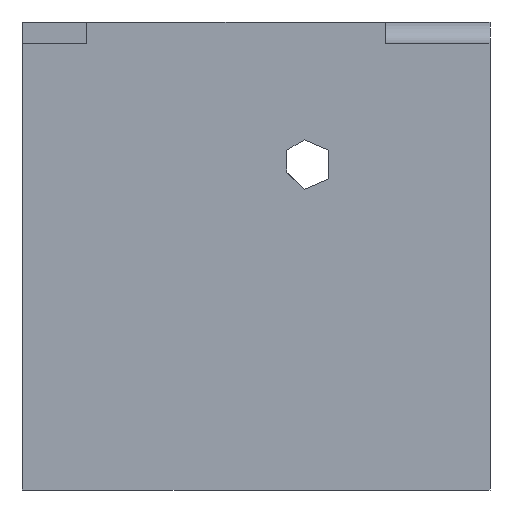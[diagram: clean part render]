
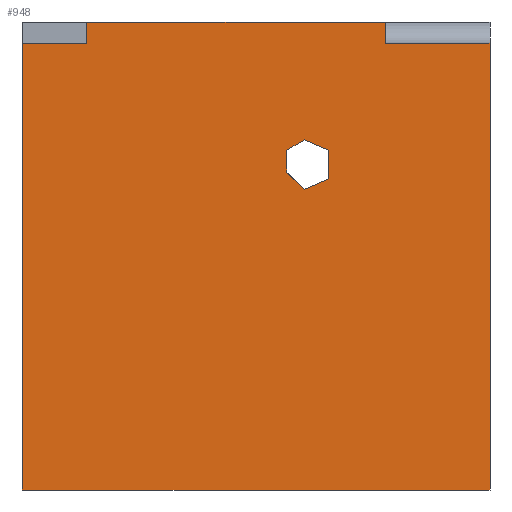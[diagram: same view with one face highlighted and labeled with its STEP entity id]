
A CAD part, left-side view. The second image highlights one B-rep face of the part: STEP entity #948.
In plain terms, the highlighted planar face has unit normal (-1, 0, 0).
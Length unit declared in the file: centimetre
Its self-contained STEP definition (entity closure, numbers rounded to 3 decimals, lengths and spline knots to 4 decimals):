
#7 = EDGE_CURVE ( 'NONE', #1961, #75, #1263, .T. ) ;
#28 = DIRECTION ( 'NONE',  ( 0., 0., 1. ) ) ;
#75 = VERTEX_POINT ( 'NONE', #576 ) ;
#101 = LINE ( 'NONE', #632, #1363 ) ;
#129 = VECTOR ( 'NONE', #2098, 100. ) ;
#149 = VERTEX_POINT ( 'NONE', #166 ) ;
#162 = VERTEX_POINT ( 'NONE', #1787 ) ;
#166 = CARTESIAN_POINT ( 'NONE',  ( 0., 434.0906, 679.3181 ) ) ;
#190 = LINE ( 'NONE', #864, #402 ) ;
#201 = CARTESIAN_POINT ( 'NONE',  ( 0., 861.4001, 1000. ) ) ;
#212 = ORIENTED_EDGE ( 'NONE', *, *, #1172, .T. ) ;
#214 = ORIENTED_EDGE ( 'NONE', *, *, #1369, .T. ) ;
#272 = DIRECTION ( 'NONE',  ( 0., -1., 0. ) ) ;
#289 = CARTESIAN_POINT ( 'NONE',  ( 0., 344.0881, 664.7056 ) ) ;
#322 = FACE_OUTER_BOUND ( 'NONE', #1942, .T. ) ;
#333 = ORIENTED_EDGE ( 'NONE', *, *, #1396, .F. ) ;
#344 = CARTESIAN_POINT ( 'NONE',  ( 0., 1000., 1000. ) ) ;
#391 = EDGE_CURVE ( 'NONE', #1295, #1247, #1817, .T. ) ;
#402 = VECTOR ( 'NONE', #28, 100. ) ;
#418 = VECTOR ( 'NONE', #272, 100. ) ;
#422 = CARTESIAN_POINT ( 'NONE',  ( 0., 397.0226, 748.2847 ) ) ;
#446 = ORIENTED_EDGE ( 'NONE', *, *, #391, .T. ) ;
#459 = ORIENTED_EDGE ( 'NONE', *, *, #630, .T. ) ;
#485 = DIRECTION ( 'NONE',  ( 1., 0., 0. ) ) ;
#562 = VECTOR ( 'NONE', #706, 100. ) ;
#569 = LINE ( 'NONE', #591, #1007 ) ;
#576 = CARTESIAN_POINT ( 'NONE',  ( 0., 1000., 954.7431 ) ) ;
#591 = CARTESIAN_POINT ( 'NONE',  ( 0., 224.0265, 954.7431 ) ) ;
#630 = EDGE_CURVE ( 'NONE', #1377, #162, #1571, .T. ) ;
#632 = CARTESIAN_POINT ( 'NONE',  ( 0., 861.4001, 954.7431 ) ) ;
#654 = EDGE_LOOP ( 'NONE', ( #1679, #1669, #1135, #856, #446, #212 ) ) ;
#683 = VERTEX_POINT ( 'NONE', #2069 ) ;
#690 = VECTOR ( 'NONE', #1117, 100. ) ;
#692 = CARTESIAN_POINT ( 'NONE',  ( 0., 224.0265, 1000. ) ) ;
#706 = DIRECTION ( 'NONE',  ( 0., -1., 0. ) ) ;
#758 = VECTOR ( 'NONE', #1940, 100. ) ;
#768 = EDGE_CURVE ( 'NONE', #1672, #683, #569, .T. ) ;
#778 = CARTESIAN_POINT ( 'NONE',  ( 0., 1000., 1000. ) ) ;
#844 = CARTESIAN_POINT ( 'NONE',  ( 0., 0., 1000. ) ) ;
#853 = LINE ( 'NONE', #692, #1141 ) ;
#856 = ORIENTED_EDGE ( 'NONE', *, *, #1434, .T. ) ;
#864 = CARTESIAN_POINT ( 'NONE',  ( 0., 434.0906, 679.3181 ) ) ;
#865 = VECTOR ( 'NONE', #1316, 100. ) ;
#883 = EDGE_CURVE ( 'NONE', #1455, #149, #1102, .T. ) ;
#885 = EDGE_CURVE ( 'NONE', #1113, #1455, #1130, .T. ) ;
#902 = EDGE_CURVE ( 'NONE', #1961, #1816, #101, .T. ) ;
#905 = EDGE_CURVE ( 'NONE', #1816, #1246, #2127, .T. ) ;
#948 = ADVANCED_FACE ( 'NONE', ( #1009, #322 ), #1341, .F. ) ;
#982 = DIRECTION ( 'NONE',  ( 0., 0., -1. ) ) ;
#1007 = VECTOR ( 'NONE', #1082, 100. ) ;
#1009 = FACE_BOUND ( 'NONE', #654, .T. ) ;
#1016 = LINE ( 'NONE', #344, #1742 ) ;
#1060 = ORIENTED_EDGE ( 'NONE', *, *, #902, .F. ) ;
#1082 = DIRECTION ( 'NONE',  ( 0., 1., 0. ) ) ;
#1084 = VECTOR ( 'NONE', #2046, 100. ) ;
#1102 = LINE ( 'NONE', #1283, #129 ) ;
#1113 = VERTEX_POINT ( 'NONE', #1233 ) ;
#1117 = DIRECTION ( 'NONE',  ( 0., 1., 0. ) ) ;
#1130 = LINE ( 'NONE', #289, #1182 ) ;
#1135 = ORIENTED_EDGE ( 'NONE', *, *, #883, .T. ) ;
#1141 = VECTOR ( 'NONE', #982, 100. ) ;
#1150 = CARTESIAN_POINT ( 'NONE',  ( 0., 434.0906, 725.8291 ) ) ;
#1167 = DIRECTION ( 'NONE',  ( 0., -0.855, 0.518 ) ) ;
#1172 = EDGE_CURVE ( 'NONE', #1247, #1268, #2058, .T. ) ;
#1178 = CARTESIAN_POINT ( 'NONE',  ( 0., 434.0906, 725.8291 ) ) ;
#1182 = VECTOR ( 'NONE', #1765, 100. ) ;
#1222 = CARTESIAN_POINT ( 'NONE',  ( 0., 397.0226, 748.2847 ) ) ;
#1233 = CARTESIAN_POINT ( 'NONE',  ( 0., 344.0881, 664.7056 ) ) ;
#1246 = VERTEX_POINT ( 'NONE', #1552 ) ;
#1247 = VERTEX_POINT ( 'NONE', #1222 ) ;
#1263 = LINE ( 'NONE', #1763, #690 ) ;
#1268 = VERTEX_POINT ( 'NONE', #1282 ) ;
#1277 = CARTESIAN_POINT ( 'NONE',  ( 0., 344.0881, 725.8291 ) ) ;
#1282 = CARTESIAN_POINT ( 'NONE',  ( 0., 344.0881, 725.8291 ) ) ;
#1283 = CARTESIAN_POINT ( 'NONE',  ( 0., 397.0226, 642.25 ) ) ;
#1295 = VERTEX_POINT ( 'NONE', #1150 ) ;
#1298 = LINE ( 'NONE', #1277, #758 ) ;
#1315 = EDGE_CURVE ( 'NONE', #1672, #162, #1987, .T. ) ;
#1316 = DIRECTION ( 'NONE',  ( 0., 0., -1. ) ) ;
#1341 = PLANE ( 'NONE',  #2149 ) ;
#1363 = VECTOR ( 'NONE', #1606, 100. ) ;
#1369 = EDGE_CURVE ( 'NONE', #75, #1377, #1016, .T. ) ;
#1377 = VERTEX_POINT ( 'NONE', #1476 ) ;
#1396 = EDGE_CURVE ( 'NONE', #1246, #683, #853, .T. ) ;
#1434 = EDGE_CURVE ( 'NONE', #149, #1295, #190, .T. ) ;
#1455 = VERTEX_POINT ( 'NONE', #1503 ) ;
#1476 = CARTESIAN_POINT ( 'NONE',  ( 0., 1000., 0. ) ) ;
#1499 = VECTOR ( 'NONE', #1167, 100. ) ;
#1502 = DIRECTION ( 'NONE',  ( 0., 0., -1. ) ) ;
#1503 = CARTESIAN_POINT ( 'NONE',  ( 0., 397.0226, 642.25 ) ) ;
#1552 = CARTESIAN_POINT ( 'NONE',  ( 0., 224.0265, 1000. ) ) ;
#1563 = ORIENTED_EDGE ( 'NONE', *, *, #1315, .F. ) ;
#1571 = LINE ( 'NONE', #2064, #562 ) ;
#1606 = DIRECTION ( 'NONE',  ( 0., 0., 1. ) ) ;
#1608 = EDGE_CURVE ( 'NONE', #1268, #1113, #1298, .T. ) ;
#1669 = ORIENTED_EDGE ( 'NONE', *, *, #885, .T. ) ;
#1672 = VERTEX_POINT ( 'NONE', #1983 ) ;
#1679 = ORIENTED_EDGE ( 'NONE', *, *, #1608, .T. ) ;
#1687 = DIRECTION ( 'NONE',  ( 0., 0., -1. ) ) ;
#1742 = VECTOR ( 'NONE', #1687, 100. ) ;
#1752 = ORIENTED_EDGE ( 'NONE', *, *, #768, .T. ) ;
#1763 = CARTESIAN_POINT ( 'NONE',  ( 0., 861.4001, 954.7431 ) ) ;
#1765 = DIRECTION ( 'NONE',  ( 0., 0.921, -0.391 ) ) ;
#1787 = CARTESIAN_POINT ( 'NONE',  ( 0., 0., 0. ) ) ;
#1791 = ORIENTED_EDGE ( 'NONE', *, *, #905, .F. ) ;
#1816 = VERTEX_POINT ( 'NONE', #201 ) ;
#1817 = LINE ( 'NONE', #1178, #1499 ) ;
#1858 = ORIENTED_EDGE ( 'NONE', *, *, #7, .T. ) ;
#1859 = CARTESIAN_POINT ( 'NONE',  ( 0., 1000., 1000. ) ) ;
#1940 = DIRECTION ( 'NONE',  ( 0., 0., -1. ) ) ;
#1942 = EDGE_LOOP ( 'NONE', ( #1060, #1858, #214, #459, #1563, #1752, #333, #1791 ) ) ;
#1961 = VERTEX_POINT ( 'NONE', #2030 ) ;
#1983 = CARTESIAN_POINT ( 'NONE',  ( 0., 0., 954.7431 ) ) ;
#1987 = LINE ( 'NONE', #844, #865 ) ;
#2030 = CARTESIAN_POINT ( 'NONE',  ( 0., 861.4001, 954.7431 ) ) ;
#2046 = DIRECTION ( 'NONE',  ( 0., -0.921, -0.391 ) ) ;
#2058 = LINE ( 'NONE', #422, #1084 ) ;
#2064 = CARTESIAN_POINT ( 'NONE',  ( 0., 1000., 0. ) ) ;
#2069 = CARTESIAN_POINT ( 'NONE',  ( 0., 224.0265, 954.7431 ) ) ;
#2098 = DIRECTION ( 'NONE',  ( 0., 0.707, 0.707 ) ) ;
#2127 = LINE ( 'NONE', #778, #418 ) ;
#2149 = AXIS2_PLACEMENT_3D ( 'NONE', #1859, #485, #1502 ) ;
